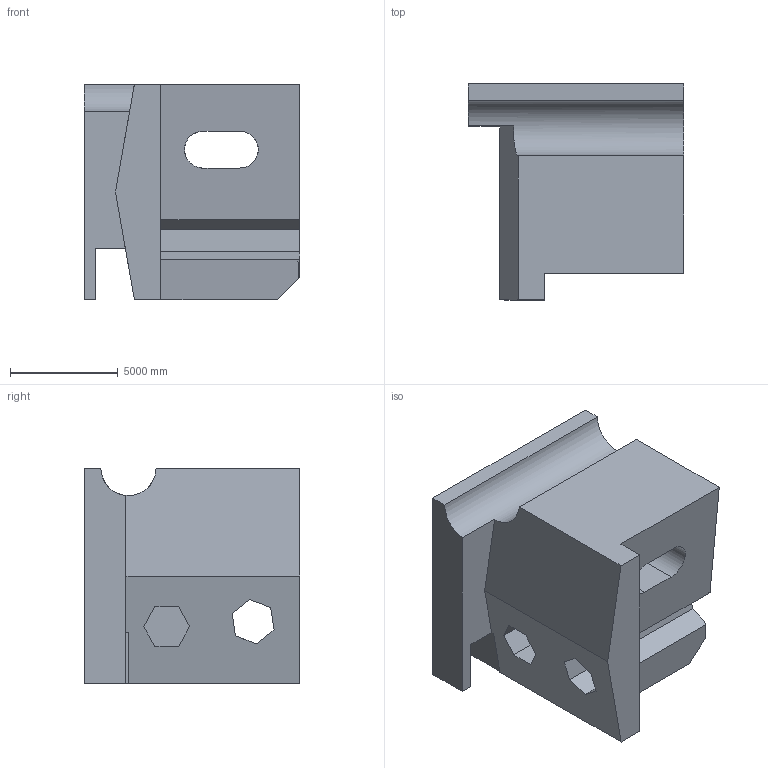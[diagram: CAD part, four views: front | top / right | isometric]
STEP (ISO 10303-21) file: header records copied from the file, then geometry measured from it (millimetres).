
FILE_DESCRIPTION (( 'STEP AP203' ), '1' );
FILE_NAME ('397.STEP', '2022-09-07T15:31:32', ( 'user' ), ( '' ), 'SwSTEP 2.0', 'SolidWorks 2021', '' );
FILE_SCHEMA (( 'CONFIG_CONTROL_DESIGN' ));
Length unit declared in the file: centimetre
Products named in the file (1): 397
Bounding box: 10000 x 10000 x 10000 mm (x, y, z)
Volume: 619356780140.9 mm3; surface area: 672441581.5 mm2
Topology: 1 solids, 1 shells, 44 faces, 123 edges, 82 vertices
Faces by surface type: plane 41, cylinder 3
Entity records: 1476 total; most frequent: CARTESIAN_POINT 259, ORIENTED_EDGE 246, DIRECTION 214, EDGE_CURVE 123, LINE 116, VECTOR 116, VERTEX_POINT 82, AXIS2_PLACEMENT_3D 49
